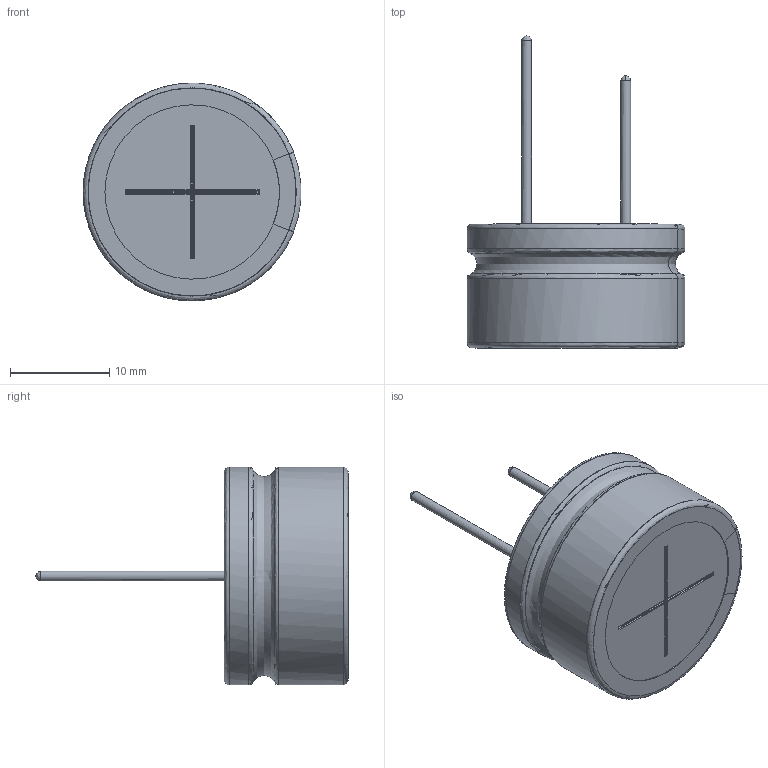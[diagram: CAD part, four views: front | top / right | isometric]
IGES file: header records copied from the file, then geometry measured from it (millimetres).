
Start section: JAMA-IS VERSION  1.0
Bounding box: 21.97 x 31.5 x 22 mm (x, y, z)
Surface area: 4014.8 mm2 (no closed solid volume)
Topology: 0 solids, 0 shells, 100 faces, 1352 edges, 1332 vertices
Faces by surface type: bspline 100
